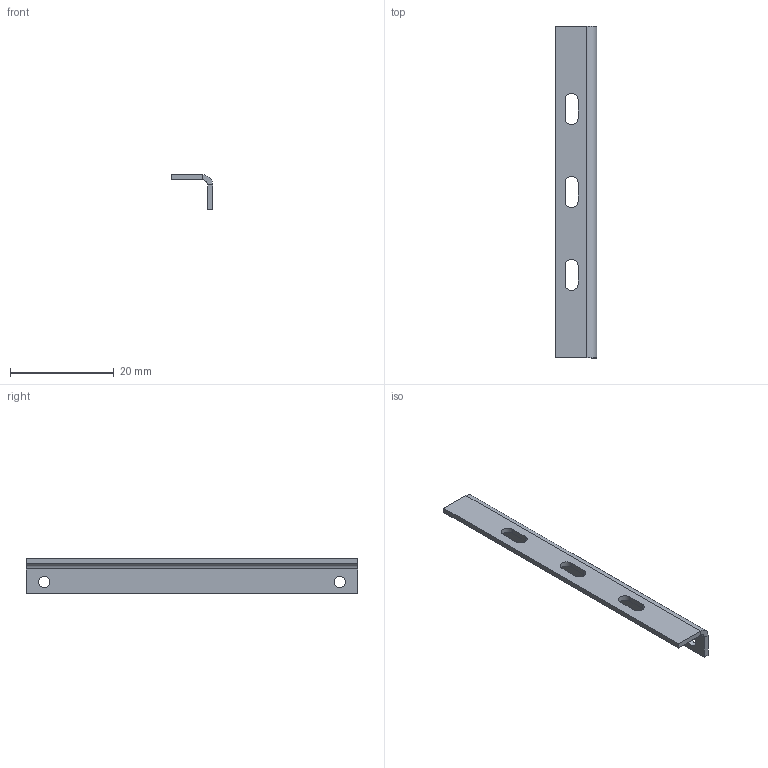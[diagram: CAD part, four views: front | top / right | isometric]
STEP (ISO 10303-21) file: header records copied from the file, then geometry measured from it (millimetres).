
FILE_DESCRIPTION(/* description */ (''),/* implementation_level */ '2;1');
FILE_NAME(/* name */ 'PDB-06-605_Cable_Strain_Relief_Bar_R01.step',/* time_stamp */ '2026-11-24T01:50:40+05:00',/* author */ (''),/* organization */ (''),/* preprocessor_version */ 'ST-DEVELOPER v20.2',/* originating_system */ 'Autodesk Translation Framework v15.17.0.0',/* authorisation */ '');
FILE_SCHEMA (('AUTOMOTIVE_DESIGN { 1 0 10303 214 3 1 1 }'));
Length unit declared in the file: centimetre
Products named in the file (1): 2026-11-24-01-50-40-135
Bounding box: 8 x 64 x 6.7 mm (x, y, z)
Volume: 787 mm3; surface area: 1786.5 mm2
Topology: 1 solids, 1 shells, 28 faces, 70 edges, 44 vertices
Faces by surface type: plane 18, cylinder 10
Full cylindrical faces by diameter (mm): 2.2 x2
Entity records: 883 total; most frequent: DIRECTION 148, CARTESIAN_POINT 143, ORIENTED_EDGE 140, EDGE_CURVE 70, LINE 50, VECTOR 50, AXIS2_PLACEMENT_3D 49, VERTEX_POINT 44
